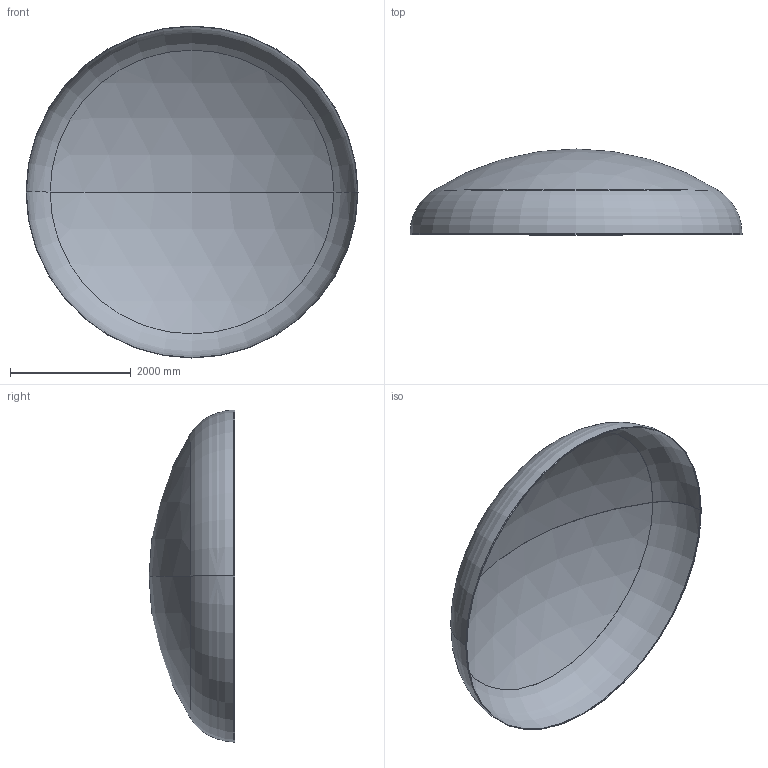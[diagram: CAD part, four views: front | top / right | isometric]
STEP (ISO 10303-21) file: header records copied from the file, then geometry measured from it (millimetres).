
FILE_DESCRIPTION (( 'STEP AP203' ), '1' );
FILE_NAME ('DIN 28013 Korbbogenform_-_Boden DIN 28013 - 5500 x 20 - I - s=5.step', '2016-07-04T10:33:30', ( '' ), ( '' ), 'SwSTEP 2.0', 'SolidWorks 2013', '' );
FILE_SCHEMA (( 'CONFIG_CONTROL_DESIGN' ));
Length unit declared in the file: millimetre
Products named in the file (1): DIN 28013 Korbbogenform_-_Boden DIN 28013 - 5500 x 20 - I - s=5
Bounding box: 5500 x 1420.33 x 5500 mm (x, y, z)
Volume: 165997376.9 mm3; surface area: 66485290.5 mm2
Topology: 1 solids, 1 shells, 13 faces, 24 edges, 14 vertices
Faces by surface type: torus 4, cylinder 4, sphere 4, plane 1
Entity records: 407 total; most frequent: DIRECTION 72, CARTESIAN_POINT 52, ORIENTED_EDGE 48, AXIS2_PLACEMENT_3D 34, EDGE_CURVE 24, CIRCLE 20, EDGE_LOOP 14, VERTEX_POINT 14
